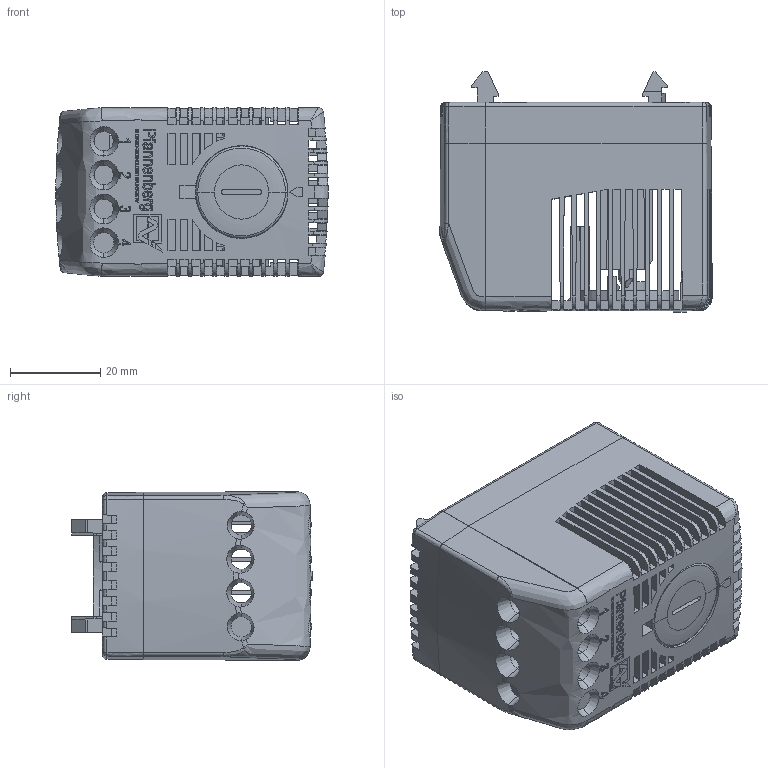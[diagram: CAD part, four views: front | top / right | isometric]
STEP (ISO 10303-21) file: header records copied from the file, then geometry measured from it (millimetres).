
FILE_DESCRIPTION (( 'STEP AP214' ), '1' );
FILE_NAME ('FLZ510_3K.STEP', '2013-08-29T05:40:35', ( '' ), ( '' ), 'SwSTEP 2.0', 'SolidWorks 2012', '' );
FILE_SCHEMA (( 'AUTOMOTIVE_DESIGN' ));
Length unit declared in the file: millimetre
Products named in the file (4): 30130-014; 30130-034_FLZ510 3&7K_FLZ600; 30130-033_FLZ 510; FLZ510_3K
Assembly tree (3 placements, depth 2):
  FLZ510_3K
    30130-033_FLZ 510
    30130-034_FLZ510 3&7K_FLZ600
    30130-014
Bounding box: 60.23 x 53.2 x 37.3 mm (x, y, z)
Volume: 25170.3 mm3; surface area: 33499.8 mm2
Topology: 30 solids, 30 shells, 1506 faces, 4451 edges, 2927 vertices
Faces by surface type: plane 1009, bspline 336, cone 99, cylinder 26, torus 26, sphere 10
Entity records: 73018 total; most frequent: CARTESIAN_POINT 36007, ORIENTED_EDGE 8878, DIRECTION 5595, EDGE_CURVE 4439, VERTEX_POINT 2927, LINE 2649, VECTOR 2649, EDGE_LOOP 1606
